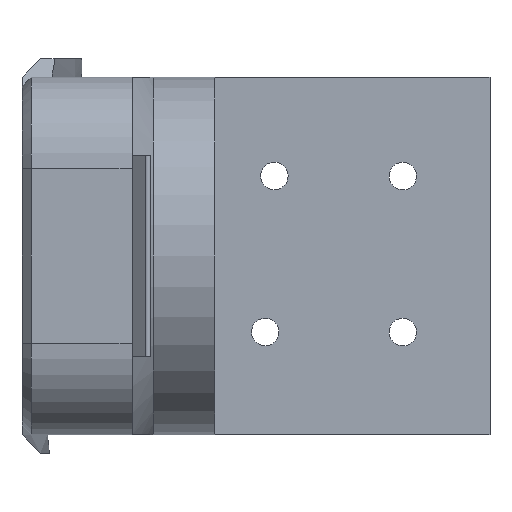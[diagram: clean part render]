
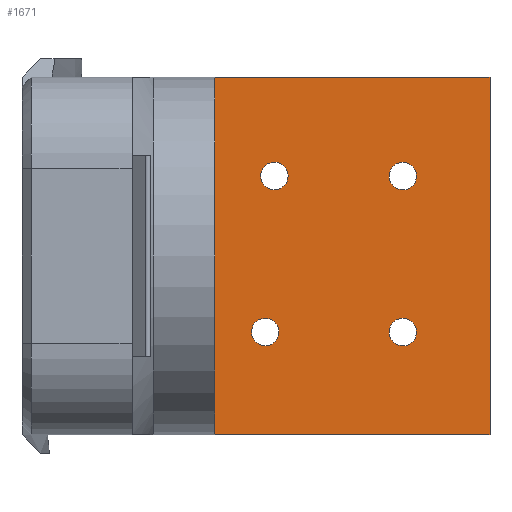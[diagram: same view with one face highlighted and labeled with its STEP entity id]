
A CAD part, front view. The second image highlights one B-rep face of the part: STEP entity #1671.
In plain terms, the highlighted planar face has unit normal (0, -1, 0).
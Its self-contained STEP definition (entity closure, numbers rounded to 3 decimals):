
#735=CARTESIAN_POINT('Axis2P3D Location',(36.5,20.335,-8.287)) ;
#739=CARTESIAN_POINT('Vertex',(37.816,20.335,-7.568)) ;
#741=CARTESIAN_POINT('Vertex',(35.184,20.335,-9.006)) ;
#761=CARTESIAN_POINT('Axis2P3D Location',(36.5,20.335,-8.287)) ;
#778=CARTESIAN_POINT('Axis2P3D Location',(36.5,20.335,8.712)) ;
#782=CARTESIAN_POINT('Vertex',(37.816,20.335,9.431)) ;
#784=CARTESIAN_POINT('Vertex',(35.184,20.335,7.993)) ;
#804=CARTESIAN_POINT('Axis2P3D Location',(36.5,20.335,8.712)) ;
#821=CARTESIAN_POINT('Axis2P3D Location',(22.5,20.335,8.712)) ;
#825=CARTESIAN_POINT('Vertex',(23.816,20.335,9.431)) ;
#827=CARTESIAN_POINT('Vertex',(21.184,20.335,7.993)) ;
#847=CARTESIAN_POINT('Axis2P3D Location',(22.5,20.335,8.712)) ;
#864=CARTESIAN_POINT('Axis2P3D Location',(21.5,20.335,-8.287)) ;
#868=CARTESIAN_POINT('Vertex',(22.816,20.335,-7.568)) ;
#870=CARTESIAN_POINT('Vertex',(20.184,20.335,-9.006)) ;
#890=CARTESIAN_POINT('Axis2P3D Location',(21.5,20.335,-8.287)) ;
#907=CARTESIAN_POINT('Line Origine',(7.,20.335,0.)) ;
#911=CARTESIAN_POINT('Vertex',(7.,20.335,13.65)) ;
#913=CARTESIAN_POINT('Vertex',(7.,20.335,-13.65)) ;
#1376=CARTESIAN_POINT('Line Origine',(11.5,20.335,13.65)) ;
#1380=CARTESIAN_POINT('Vertex',(16.,20.335,13.65)) ;
#1424=CARTESIAN_POINT('Line Origine',(11.5,20.335,-13.65)) ;
#1428=CARTESIAN_POINT('Vertex',(16.,20.335,-13.65)) ;
#1607=CARTESIAN_POINT('Axis2P3D Location',(7.,20.335,-19.5)) ;
#1612=CARTESIAN_POINT('Line Origine',(16.,20.335,-16.575)) ;
#1616=CARTESIAN_POINT('Vertex',(16.,20.335,-19.5)) ;
#1619=CARTESIAN_POINT('Line Origine',(31.,20.335,-19.5)) ;
#1623=CARTESIAN_POINT('Vertex',(46.,20.335,-19.5)) ;
#1626=CARTESIAN_POINT('Line Origine',(46.,20.335,0.)) ;
#1630=CARTESIAN_POINT('Vertex',(46.,20.335,19.5)) ;
#1633=CARTESIAN_POINT('Line Origine',(31.,20.335,19.5)) ;
#1637=CARTESIAN_POINT('Vertex',(16.,20.335,19.5)) ;
#1640=CARTESIAN_POINT('Line Origine',(16.,20.335,16.575)) ;
#736=DIRECTION('Axis2P3D Direction',(0.,-1.,-0.)) ;
#762=DIRECTION('Axis2P3D Direction',(0.,-1.,-0.)) ;
#779=DIRECTION('Axis2P3D Direction',(0.,-1.,-0.)) ;
#805=DIRECTION('Axis2P3D Direction',(0.,-1.,-0.)) ;
#822=DIRECTION('Axis2P3D Direction',(0.,-1.,-0.)) ;
#848=DIRECTION('Axis2P3D Direction',(0.,-1.,-0.)) ;
#865=DIRECTION('Axis2P3D Direction',(0.,-1.,-0.)) ;
#891=DIRECTION('Axis2P3D Direction',(0.,-1.,-0.)) ;
#908=DIRECTION('Vector Direction',(0.,0.,1.)) ;
#1377=DIRECTION('Vector Direction',(1.,0.,0.)) ;
#1425=DIRECTION('Vector Direction',(1.,0.,0.)) ;
#1608=DIRECTION('Axis2P3D Direction',(0.,1.,0.)) ;
#1609=DIRECTION('Axis2P3D XDirection',(0.,0.,1.)) ;
#1613=DIRECTION('Vector Direction',(0.,0.,1.)) ;
#1620=DIRECTION('Vector Direction',(1.,0.,0.)) ;
#1627=DIRECTION('Vector Direction',(0.,0.,1.)) ;
#1634=DIRECTION('Vector Direction',(1.,0.,0.)) ;
#1641=DIRECTION('Vector Direction',(0.,0.,1.)) ;
#737=AXIS2_PLACEMENT_3D('Circle Axis2P3D',#735,#736,$) ;
#763=AXIS2_PLACEMENT_3D('Circle Axis2P3D',#761,#762,$) ;
#780=AXIS2_PLACEMENT_3D('Circle Axis2P3D',#778,#779,$) ;
#806=AXIS2_PLACEMENT_3D('Circle Axis2P3D',#804,#805,$) ;
#823=AXIS2_PLACEMENT_3D('Circle Axis2P3D',#821,#822,$) ;
#849=AXIS2_PLACEMENT_3D('Circle Axis2P3D',#847,#848,$) ;
#866=AXIS2_PLACEMENT_3D('Circle Axis2P3D',#864,#865,$) ;
#892=AXIS2_PLACEMENT_3D('Circle Axis2P3D',#890,#891,$) ;
#1610=AXIS2_PLACEMENT_3D('Plane Axis2P3D',#1607,#1608,#1609) ;
#1646=ORIENTED_EDGE('',*,*,#1430,.T.) ;
#1647=ORIENTED_EDGE('',*,*,#1618,.F.) ;
#1648=ORIENTED_EDGE('',*,*,#1625,.T.) ;
#1649=ORIENTED_EDGE('',*,*,#1632,.F.) ;
#1650=ORIENTED_EDGE('',*,*,#1639,.F.) ;
#1651=ORIENTED_EDGE('',*,*,#1644,.F.) ;
#1652=ORIENTED_EDGE('',*,*,#1382,.F.) ;
#1653=ORIENTED_EDGE('',*,*,#915,.T.) ;
#1656=ORIENTED_EDGE('',*,*,#872,.T.) ;
#1657=ORIENTED_EDGE('',*,*,#894,.T.) ;
#1660=ORIENTED_EDGE('',*,*,#829,.T.) ;
#1661=ORIENTED_EDGE('',*,*,#851,.T.) ;
#1664=ORIENTED_EDGE('',*,*,#786,.T.) ;
#1665=ORIENTED_EDGE('',*,*,#808,.T.) ;
#1668=ORIENTED_EDGE('',*,*,#743,.T.) ;
#1669=ORIENTED_EDGE('',*,*,#765,.T.) ;
#1658=FACE_BOUND('',#1655,.T.) ;
#1662=FACE_BOUND('',#1659,.T.) ;
#1666=FACE_BOUND('',#1663,.T.) ;
#1670=FACE_BOUND('',#1667,.T.) ;
#909=VECTOR('Line Direction',#908,1.) ;
#1378=VECTOR('Line Direction',#1377,1.) ;
#1426=VECTOR('Line Direction',#1425,1.) ;
#1614=VECTOR('Line Direction',#1613,1.) ;
#1621=VECTOR('Line Direction',#1620,1.) ;
#1628=VECTOR('Line Direction',#1627,1.) ;
#1635=VECTOR('Line Direction',#1634,1.) ;
#1642=VECTOR('Line Direction',#1641,1.) ;
#1671=ADVANCED_FACE('PartBody',(#1654,#1658,#1662,#1666,#1670),#1611,.F.) ;
#738=CIRCLE('generated circle',#737,1.5) ;
#764=CIRCLE('generated circle',#763,1.5) ;
#781=CIRCLE('generated circle',#780,1.5) ;
#807=CIRCLE('generated circle',#806,1.5) ;
#824=CIRCLE('generated circle',#823,1.5) ;
#850=CIRCLE('generated circle',#849,1.5) ;
#867=CIRCLE('generated circle',#866,1.5) ;
#893=CIRCLE('generated circle',#892,1.5) ;
#743=EDGE_CURVE('',#740,#742,#738,.F.) ;
#765=EDGE_CURVE('',#742,#740,#764,.F.) ;
#786=EDGE_CURVE('',#783,#785,#781,.F.) ;
#808=EDGE_CURVE('',#785,#783,#807,.F.) ;
#829=EDGE_CURVE('',#826,#828,#824,.F.) ;
#851=EDGE_CURVE('',#828,#826,#850,.F.) ;
#872=EDGE_CURVE('',#869,#871,#867,.F.) ;
#894=EDGE_CURVE('',#871,#869,#893,.F.) ;
#915=EDGE_CURVE('',#912,#914,#910,.F.) ;
#1382=EDGE_CURVE('',#912,#1381,#1379,.T.) ;
#1430=EDGE_CURVE('',#914,#1429,#1427,.T.) ;
#1618=EDGE_CURVE('',#1617,#1429,#1615,.T.) ;
#1625=EDGE_CURVE('',#1617,#1624,#1622,.T.) ;
#1632=EDGE_CURVE('',#1631,#1624,#1629,.F.) ;
#1639=EDGE_CURVE('',#1638,#1631,#1636,.T.) ;
#1644=EDGE_CURVE('',#1381,#1638,#1643,.T.) ;
#1645=EDGE_LOOP('',(#1646,#1647,#1648,#1649,#1650,#1651,#1652,#1653)) ;
#1655=EDGE_LOOP('',(#1656,#1657)) ;
#1659=EDGE_LOOP('',(#1660,#1661)) ;
#1663=EDGE_LOOP('',(#1664,#1665)) ;
#1667=EDGE_LOOP('',(#1668,#1669)) ;
#1654=FACE_OUTER_BOUND('',#1645,.T.) ;
#910=LINE('Line',#907,#909) ;
#1379=LINE('Line',#1376,#1378) ;
#1427=LINE('Line',#1424,#1426) ;
#1615=LINE('Line',#1612,#1614) ;
#1622=LINE('Line',#1619,#1621) ;
#1629=LINE('Line',#1626,#1628) ;
#1636=LINE('Line',#1633,#1635) ;
#1643=LINE('Line',#1640,#1642) ;
#1611=PLANE('',#1610) ;
#740=VERTEX_POINT('',#739) ;
#742=VERTEX_POINT('',#741) ;
#783=VERTEX_POINT('',#782) ;
#785=VERTEX_POINT('',#784) ;
#826=VERTEX_POINT('',#825) ;
#828=VERTEX_POINT('',#827) ;
#869=VERTEX_POINT('',#868) ;
#871=VERTEX_POINT('',#870) ;
#912=VERTEX_POINT('',#911) ;
#914=VERTEX_POINT('',#913) ;
#1381=VERTEX_POINT('',#1380) ;
#1429=VERTEX_POINT('',#1428) ;
#1617=VERTEX_POINT('',#1616) ;
#1624=VERTEX_POINT('',#1623) ;
#1631=VERTEX_POINT('',#1630) ;
#1638=VERTEX_POINT('',#1637) ;
